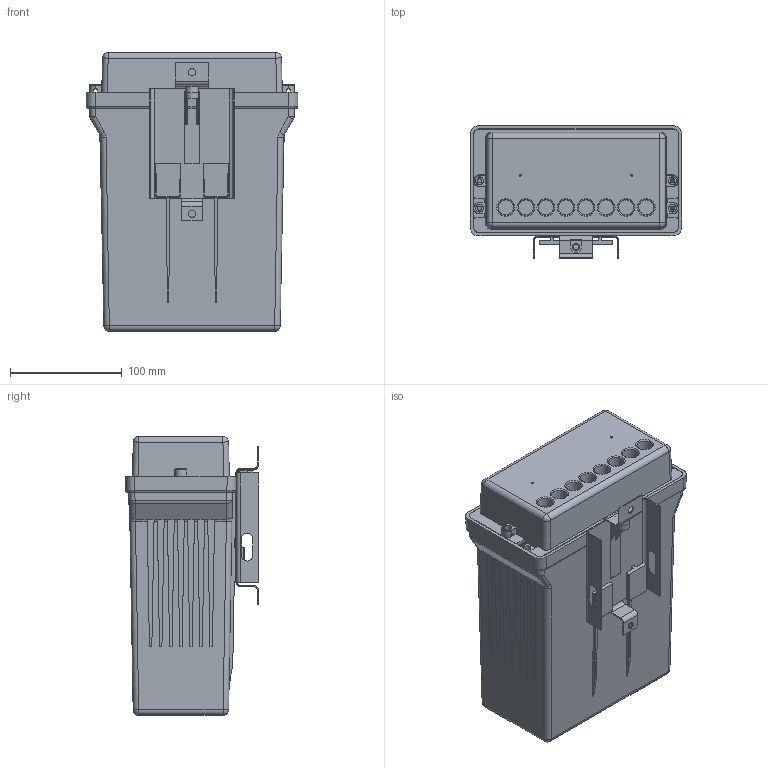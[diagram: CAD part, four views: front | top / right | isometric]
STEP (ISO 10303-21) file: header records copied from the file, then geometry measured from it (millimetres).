
FILE_DESCRIPTION(('STEP AP203'), '1');
FILE_NAME('ÊÂÀÍÒ ST 2000-12-Ñ ñ êðîíøòåéíîì', '2019-08-16T07:15:09', (' '), (''), 'ASCON STEP Converter 1.3', 'ASCON Math Kernel', '');
FILE_SCHEMA(('CONFIG_CONTROL_DESIGN'));
Length unit declared in the file: millimetre
Products named in the file (1): 30
Bounding box: 190 x 118.92 x 250 mm (x, y, z)
Volume: 567523.1 mm3; surface area: 371735.8 mm2
Topology: 4 solids, 4 shells, 862 faces, 2261 edges, 1417 vertices
Faces by surface type: plane 468, cylinder 269, bspline 56, cone 38, sphere 20, torus 11
Full cylindrical faces by diameter (mm): 2 x2, 3.75 x6, 4.3 x2, 5 x1, 5.5 x6, 6.4 x2, 6.5 x1, 7 x4, 7.5 x6
Entity records: 37866 total; most frequent: CARTESIAN_POINT 17630, ORIENTED_EDGE 4520, DIRECTION 3684, EDGE_CURVE 2260, VERTEX_POINT 1417, LINE 1394, VECTOR 1394, AXIS2_PLACEMENT_3D 1145
